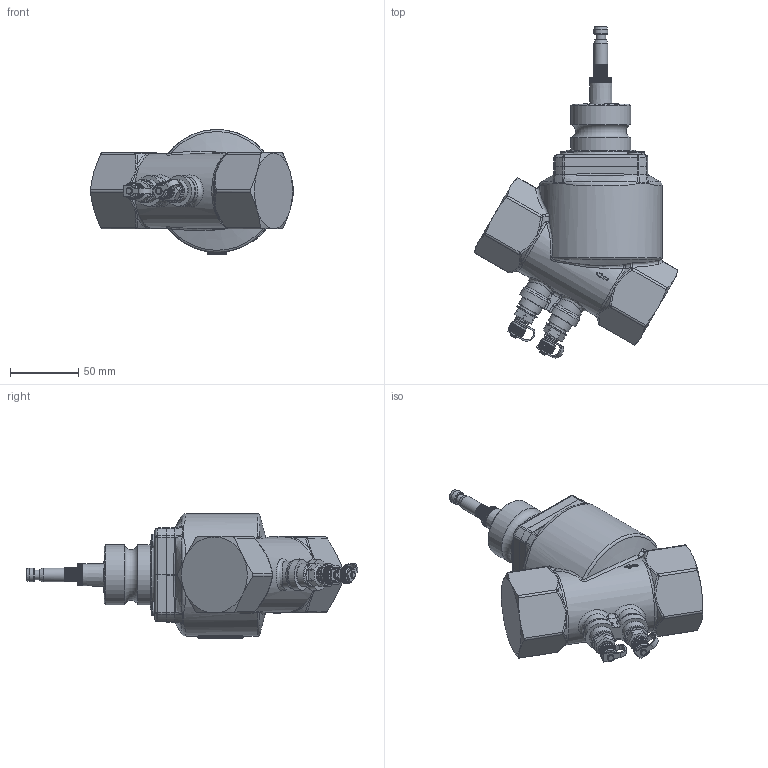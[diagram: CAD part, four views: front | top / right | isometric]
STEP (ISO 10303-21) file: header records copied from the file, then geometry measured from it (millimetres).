
FILE_DESCRIPTION(/* description */ ('Dansk beskrivelse'),/* implementation_level */ '2;1');
FILE_NAME(/* name */ 'C:\Users\jjo\Desktop\Siemens Cad modeller\53-1575.stp',/* time_stamp */ '2015-05-05T12:48:09+02:00',/* author */ ('jjo'),/* organization */ (''),/* preprocessor_version */ 'ST-DEVELOPER v15.2',/* originating_system */ 'Autodesk Inventor 2014',/* authorisation */ '0 mm^3');
FILE_SCHEMA (('AUTOMOTIVE_DESIGN { 1 0 10303 214 3 1 1 }'));
Products named in the file (1): 53-1575_Shrinkwrap_1
Bounding box: 148.86 x 243.29 x 91.44 mm (x, y, z)
Volume: 822606.3 mm3; surface area: 64005.7 mm2
Topology: 1 solids, 1 shells, 2031 faces, 5432 edges, 3492 vertices
Faces by surface type: plane 954, cylinder 473, bspline 466, cone 80, torus 44, sphere 14
Full cylindrical faces by diameter (mm): 2.9 x2, 5 x2, 7 x1, 8.3 x2, 9.728 x2, 10 x6, 10.5 x1, 11 x2, 11.5 x2, 17 x4, 44 x2
Entity records: 74167 total; most frequent: CARTESIAN_POINT 25294, ORIENTED_EDGE 10716, DIRECTION 8452, EDGE_CURVE 5354, VERTEX_POINT 3478, AXIS2_PLACEMENT_3D 2939, LINE 2574, VECTOR 2574
